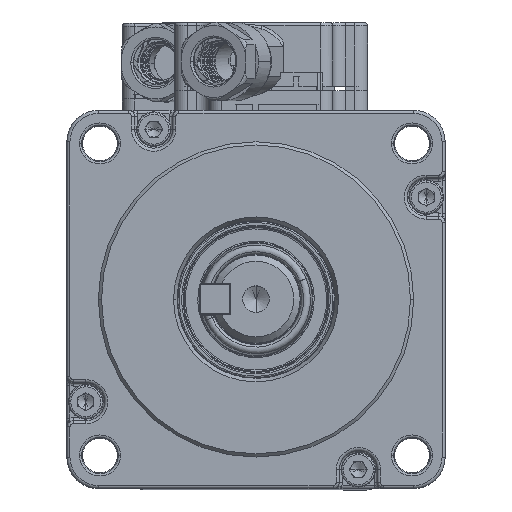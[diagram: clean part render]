
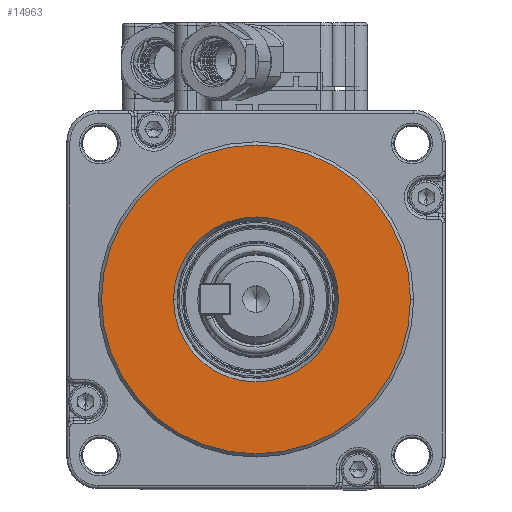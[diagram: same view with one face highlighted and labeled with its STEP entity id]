
A CAD part, top view. The second image highlights one B-rep face of the part: STEP entity #14963.
In plain terms, the highlighted planar face has unit normal (0, 0, 1).
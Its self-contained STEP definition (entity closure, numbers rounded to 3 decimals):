
#7988=CARTESIAN_POINT('',(0.,0.,8.));
#7989=DIRECTION('',(0.,0.,-1.));
#7990=DIRECTION('',(-1.,0.,0.));
#7991=AXIS2_PLACEMENT_3D('',#7988,#7989,#7990);
#7993=CARTESIAN_POINT('',(0.,0.,8.));
#7994=DIRECTION('',(0.,0.,-1.));
#7995=DIRECTION('',(1.,0.,0.));
#7996=AXIS2_PLACEMENT_3D('',#7993,#7994,#7995);
#7998=CARTESIAN_POINT('',(0.,0.,8.));
#7999=DIRECTION('',(0.,0.,1.));
#8000=DIRECTION('',(-1.,0.,0.));
#8001=AXIS2_PLACEMENT_3D('',#7998,#7999,#8000);
#8003=CARTESIAN_POINT('',(0.,0.,8.));
#8004=DIRECTION('',(0.,0.,1.));
#8005=DIRECTION('',(1.,0.,0.));
#8006=AXIS2_PLACEMENT_3D('',#8003,#8004,#8005);
#8911=CARTESIAN_POINT('',(24.5,0.,8.));
#8912=VERTEX_POINT('',#8911);
#8913=CARTESIAN_POINT('',(-24.5,0.,8.));
#8914=VERTEX_POINT('',#8913);
#8915=CARTESIAN_POINT('',(-13.077,0.,8.));
#8916=CARTESIAN_POINT('',(13.077,0.,8.));
#8917=VERTEX_POINT('',#8915);
#8918=VERTEX_POINT('',#8916);
#14948=CARTESIAN_POINT('',(25.,25.,8.));
#14949=DIRECTION('',(0.,0.,-1.));
#14950=DIRECTION('',(-1.,0.,0.));
#14951=AXIS2_PLACEMENT_3D('',#14948,#14949,#14950);
#14952=PLANE('',#14951);
#14953=ORIENTED_EDGE('',*,*,#14928,.T.);
#14954=ORIENTED_EDGE('',*,*,#14942,.T.);
#14955=EDGE_LOOP('',(#14953,#14954));
#14956=FACE_OUTER_BOUND('',#14955,.F.);
#14958=ORIENTED_EDGE('',*,*,#14957,.T.);
#14960=ORIENTED_EDGE('',*,*,#14959,.T.);
#14961=EDGE_LOOP('',(#14958,#14960));
#14962=FACE_BOUND('',#14961,.F.);
#14963=ADVANCED_FACE('',(#14956,#14962),#14952,.F.);
#7992=CIRCLE('',#7991,24.5);
#7997=CIRCLE('',#7996,24.5);
#8002=CIRCLE('',#8001,13.077);
#8007=CIRCLE('',#8006,13.077);
#14928=EDGE_CURVE('',#8914,#8912,#7992,.T.);
#14942=EDGE_CURVE('',#8912,#8914,#7997,.T.);
#14957=EDGE_CURVE('',#8917,#8918,#8002,.T.);
#14959=EDGE_CURVE('',#8918,#8917,#8007,.T.);
